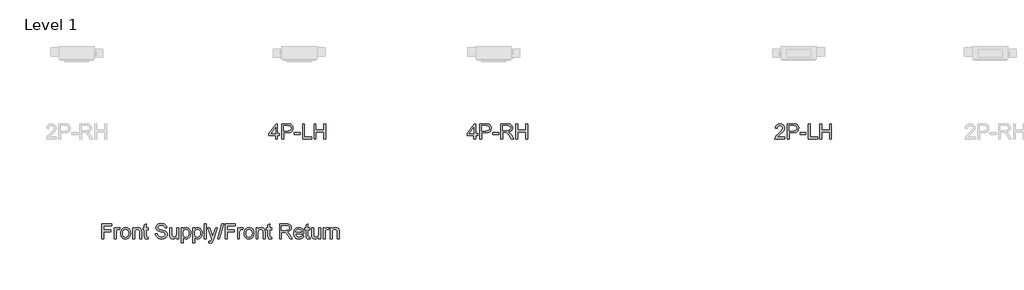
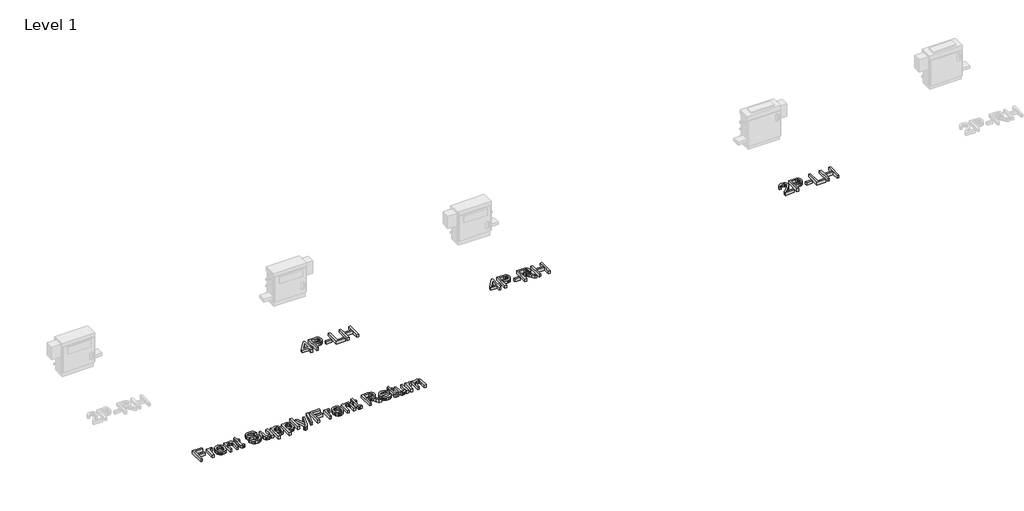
# One storey, part 2 of 3: 4 proxies.
"""IFC4 building model written with IfcOpenShell, lengths in millimetres."""

from ifc_helpers import new_model, si_unit, origin, origin_with_axes, place, context, project, spatial, polyline, outline, extrude, element, save

model = new_model("IFC4")

# Units and contexts
model_context = context("Model", 3, world=origin())
ifc_project = project(units=[si_unit("LENGTHUNIT", "METRE", prefix="MILLI")], contexts=[model_context])

# Site, building, storey
site = spatial("IfcSite", under=ifc_project)
building = spatial("IfcBuilding", under=site)
storey = spatial("IfcBuildingStorey", under=building, Name="Level 1", Elevation=0.0)

# Proxies
placement = place(None, origin())
element("IfcBuildingElementProxy", 1, Name="24\" Arial", ObjectType="24\" Arial", at=placement, inside=storey, context=model_context, shape_type="SweptSolid", body=[
    extrude(outline(polyline([(-12796.4761517, -2672.4337764), (-12796.4761517, -2612.6308793), (-12912.0950862, -2612.6308793), (-12912.0950862, -2580.7360008), (-12788.5024321, -2421.2616085), (-12764.5812732, -2421.2616085), (-12764.5812732, -2580.7360008), (-12732.6863947, -2580.7360008), (-12732.6863947, -2612.6308793), (-12764.5812732, -2612.6308793), (-12764.5812732, -2672.4337764), (-12796.4761517, -2672.4337764)]), holes=[polyline([(-12796.4761517, -2580.7360008), (-12796.4761517, -2482.1858099), (-12872.8494349, -2580.7360008), (-12796.4761517, -2580.7360008)])]), origin_with_axes(), (0.0, 0.0, 1.0), 50.8),
    extrude(outline(polyline([(-12692.8177967, -2672.4337764), (-12692.8177967, -2417.2747487), (-12598.2544656, -2417.2747487), (-12560.1301186, -2419.7042414), (-12543.1314566, -2424.2439665), (-12529.1385131, -2431.6336734), (-12517.870962, -2442.2081961), (-12509.0484773, -2456.3023685), (-12503.3485137, -2472.9272624), (-12501.4485258, -2491.0939498), (-12506.5800505, -2521.1667088), (-12521.9746244, -2546.2247456), (-12534.3031318, -2556.0906663), (-12550.7625555, -2563.1377525), (-12571.3528954, -2567.3660042), (-12596.0741516, -2568.7754214), (-12660.9229182, -2568.7754214), (-12660.9229182, -2672.4337764), (-12692.8177967, -2672.4337764)]), holes=[polyline([(-12660.9229182, -2536.8805429), (-12594.2053111, -2536.8805429), (-12565.9235243, -2533.9526928), (-12547.2351189, -2525.1691422), (-12536.816333, -2511.0749699), (-12533.3434043, -2492.2152541), (-12535.391342, -2477.8874767), (-12541.5351553, -2465.8023079), (-12551.0117342, -2456.707284), (-12563.0579688, -2451.3499411), (-12594.9528473, -2449.1696271), (-12660.9229182, -2449.1696271), (-12660.9229182, -2536.8805429)])]), origin_with_axes(), (0.0, 0.0, 1.0), 50.8),
    extrude(outline(polyline([(-12477.527367, -2596.6834401), (-12477.527367, -2564.7885616), (-12377.8558717, -2564.7885616), (-12377.8558717, -2596.6834401), (-12477.527367, -2596.6834401)])), origin_with_axes(), (0.0, 0.0, 1.0), 50.8),
    extrude(outline(polyline([(-12337.9872736, -2672.4337764), (-12337.9872736, -2417.2747487), (-12306.0923952, -2417.2747487), (-12306.0923952, -2640.538898), (-12178.5128813, -2640.538898), (-12178.5128813, -2672.4337764), (-12337.9872736, -2672.4337764)])), origin_with_axes(), (0.0, 0.0, 1.0), 50.8),
    extrude(outline(polyline([(-12142.631143, -2672.4337764), (-12142.631143, -2417.2747487), (-12110.7362645, -2417.2747487), (-12110.7362645, -2520.9331037), (-11975.183031, -2520.9331037), (-11975.183031, -2417.2747487), (-11943.2881526, -2417.2747487), (-11943.2881526, -2672.4337764), (-11975.183031, -2672.4337764), (-11975.183031, -2552.8279822), (-12110.7362645, -2552.8279822), (-12110.7362645, -2672.4337764), (-12142.631143, -2672.4337764)])), origin_with_axes(), (0.0, 0.0, 1.0), 50.8),
])
element("IfcBuildingElementProxy", 2, Name="24\" Arial", ObjectType="24\" Arial", at=placement, inside=storey, context=model_context, shape_type="SweptSolid", body=[
    extrude(outline(polyline([(-9428.2210372, -2672.4337764), (-9428.2210372, -2612.6308793), (-9543.8399717, -2612.6308793), (-9543.8399717, -2580.7360008), (-9420.2473176, -2421.2616085), (-9396.3261587, -2421.2616085), (-9396.3261587, -2580.7360008), (-9364.4312802, -2580.7360008), (-9364.4312802, -2612.6308793), (-9396.3261587, -2612.6308793), (-9396.3261587, -2672.4337764), (-9428.2210372, -2672.4337764)]), holes=[polyline([(-9428.2210372, -2580.7360008), (-9428.2210372, -2482.1858099), (-9504.5943204, -2580.7360008), (-9428.2210372, -2580.7360008)])]), origin_with_axes(), (0.0, 0.0, 1.0), 50.8),
    extrude(outline(polyline([(-9324.5626822, -2672.4337764), (-9324.5626822, -2417.2747487), (-9229.9993511, -2417.2747487), (-9191.8750041, -2419.7042414), (-9174.8763421, -2424.2439665), (-9160.8833986, -2431.6336734), (-9149.6158475, -2442.2081961), (-9140.7933628, -2456.3023685), (-9135.0933992, -2472.9272624), (-9133.1934113, -2491.0939498), (-9138.324936, -2521.1667088), (-9153.7195099, -2546.2247456), (-9166.0480173, -2556.0906663), (-9182.507441, -2563.1377525), (-9203.0977809, -2567.3660042), (-9227.8190371, -2568.7754214), (-9292.6678037, -2568.7754214), (-9292.6678037, -2672.4337764), (-9324.5626822, -2672.4337764)]), holes=[polyline([(-9292.6678037, -2536.8805429), (-9225.9501966, -2536.8805429), (-9197.6684098, -2533.9526928), (-9178.9800044, -2525.1691422), (-9168.5612185, -2511.0749699), (-9165.0882898, -2492.2152541), (-9167.1362275, -2477.8874767), (-9173.2800408, -2465.8023079), (-9182.7566197, -2456.707284), (-9194.8028543, -2451.3499411), (-9226.6977328, -2449.1696271), (-9292.6678037, -2449.1696271), (-9292.6678037, -2536.8805429)])]), origin_with_axes(), (0.0, 0.0, 1.0), 50.8),
    extrude(outline(polyline([(-9109.2722525, -2596.6834401), (-9109.2722525, -2564.7885616), (-9009.6007572, -2564.7885616), (-9009.6007572, -2596.6834401), (-9109.2722525, -2596.6834401)])), origin_with_axes(), (0.0, 0.0, 1.0), 50.8),
    extrude(outline(polyline([(-8969.7321591, -2672.4337764), (-8969.7321591, -2417.2747487), (-8859.782041, -2417.2747487), (-8830.231, -2418.9956393), (-8808.731547, -2424.1583113), (-8793.0177128, -2433.689398), (-8780.8235284, -2448.5155329), (-8772.9977586, -2466.9002517), (-8770.3891687, -2487.10709), (-8774.7108624, -2512.2429952), (-8787.6759436, -2533.0805672), (-8809.6737541, -2548.3583385), (-8841.0936356, -2556.814842), (-8822.9658824, -2570.4573779), (-8797.1135884, -2603.2866766), (-8754.5663188, -2672.4337764), (-8791.6316561, -2672.4337764), (-8824.834723, -2619.5455893), (-8848.8181765, -2584.5359766), (-8865.6688887, -2567.9967378), (-8880.8376443, -2561.9230061), (-8899.3391656, -2560.8017018), (-8937.8372807, -2560.8017018), (-8937.8372807, -2672.4337764), (-8969.7321591, -2672.4337764)]), holes=[polyline([(-8937.8372807, -2528.9068233), (-8866.4475722, -2528.9068233), (-8830.0363291, -2524.3904587), (-8818.060176, -2518.5191847), (-8809.3544939, -2509.9380919), (-8804.0516588, -2499.5582401), (-8802.2840472, -2488.290689), (-8805.655747, -2472.7325915), (-8815.7708464, -2460.1957863), (-8833.1744239, -2451.9261669), (-8858.4115579, -2449.1696271), (-8937.8372807, -2449.1696271), (-8937.8372807, -2528.9068233)])]), origin_with_axes(), (0.0, 0.0, 1.0), 50.8),
    extrude(outline(polyline([(-8714.5731314, -2672.4337764), (-8714.5731314, -2417.2747487), (-8682.6782529, -2417.2747487), (-8682.6782529, -2520.9331037), (-8547.1250194, -2520.9331037), (-8547.1250194, -2417.2747487), (-8515.2301409, -2417.2747487), (-8515.2301409, -2672.4337764), (-8547.1250194, -2672.4337764), (-8547.1250194, -2552.8279822), (-8682.6782529, -2552.8279822), (-8682.6782529, -2672.4337764), (-8714.5731314, -2672.4337764)])), origin_with_axes(), (0.0, 0.0, 1.0), 50.8),
])
element("IfcBuildingElementProxy", 3, Name="24\" Arial", ObjectType="24\" Arial", at=placement, inside=storey, context=model_context, shape_type="SweptSolid", body=[
    extrude(outline(polyline([(-4145.3589267, -2640.538898), (-4145.3589267, -2672.4337764), (-4312.8070387, -2672.4337764), (-4309.3808311, -2650.4437528), (-4301.5161271, -2633.2582067), (-4290.0071842, -2616.5865918), (-4250.0762914, -2579.6146965), (-4215.6584782, -2549.0435801), (-4195.0077903, -2526.4773306), (-4184.6824463, -2508.1626934), (-4181.240665, -2490.3464136), (-4184.4877754, -2474.3756138), (-4194.2291067, -2461.0990592), (-4209.2031915, -2452.1519851), (-4228.1485625, -2449.1696271), (-4248.0439273, -2452.0819036), (-4263.5007959, -2460.8187331), (-4273.4757323, -2474.6948741), (-4276.9253004, -2493.025085), (-4308.8201789, -2489.0382252), (-4301.0878512, -2458.1867827), (-4284.3695152, -2435.6516806), (-4259.5372966, -2421.8689816), (-4227.4633209, -2417.2747487), (-4195.1557402, -2422.3829128), (-4170.3702426, -2437.7074052), (-4154.6019005, -2460.6007017), (-4149.3457865, -2488.4152784), (-4155.0146028, -2518.6593477), (-4173.8587449, -2549.9312793), (-4219.551896, -2593.6310005), (-4256.2434652, -2624.3111326), (-4270.6335373, -2640.538898), (-4145.3589267, -2640.538898)])), origin_with_axes(), (0.0, 0.0, 1.0), 50.8),
    extrude(outline(polyline([(-4101.5034688, -2672.4337764), (-4101.5034688, -2417.2747487), (-4006.9401377, -2417.2747487), (-3968.8157908, -2419.7042414), (-3951.8171288, -2424.2439665), (-3937.8241853, -2431.6336734), (-3926.5566342, -2442.2081961), (-3917.7341495, -2456.3023685), (-3912.0341859, -2472.9272624), (-3910.134198, -2491.0939498), (-3915.2657226, -2521.1667088), (-3930.6602965, -2546.2247456), (-3942.988804, -2556.0906663), (-3959.4482276, -2563.1377525), (-3980.0385676, -2567.3660042), (-4004.7598238, -2568.7754214), (-4069.6085904, -2568.7754214), (-4069.6085904, -2672.4337764), (-4101.5034688, -2672.4337764)]), holes=[polyline([(-4069.6085904, -2536.8805429), (-4002.8909832, -2536.8805429), (-3974.6091965, -2533.9526928), (-3955.9207911, -2525.1691422), (-3945.5020051, -2511.0749699), (-3942.0290765, -2492.2152541), (-3944.0770142, -2477.8874767), (-3950.2208275, -2465.8023079), (-3959.6974064, -2456.707284), (-3971.743641, -2451.3499411), (-4003.6385195, -2449.1696271), (-4069.6085904, -2449.1696271), (-4069.6085904, -2536.8805429)])]), origin_with_axes(), (0.0, 0.0, 1.0), 50.8),
    extrude(outline(polyline([(-3886.2130391, -2596.6834401), (-3886.2130391, -2564.7885616), (-3786.5415439, -2564.7885616), (-3786.5415439, -2596.6834401), (-3886.2130391, -2596.6834401)])), origin_with_axes(), (0.0, 0.0, 1.0), 50.8),
    extrude(outline(polyline([(-3746.6729458, -2672.4337764), (-3746.6729458, -2417.2747487), (-3714.7780674, -2417.2747487), (-3714.7780674, -2640.538898), (-3587.1985535, -2640.538898), (-3587.1985535, -2672.4337764), (-3746.6729458, -2672.4337764)])), origin_with_axes(), (0.0, 0.0, 1.0), 50.8),
    extrude(outline(polyline([(-3551.3168152, -2672.4337764), (-3551.3168152, -2417.2747487), (-3519.4219367, -2417.2747487), (-3519.4219367, -2520.9331037), (-3383.8687032, -2520.9331037), (-3383.8687032, -2417.2747487), (-3351.9738247, -2417.2747487), (-3351.9738247, -2672.4337764), (-3383.8687032, -2672.4337764), (-3383.8687032, -2552.8279822), (-3519.4219367, -2552.8279822), (-3519.4219367, -2672.4337764), (-3551.3168152, -2672.4337764)])), origin_with_axes(), (0.0, 0.0, 1.0), 50.8),
])
element("IfcBuildingElementProxy", 4, Name="24\" Arial", ObjectType="24\" Arial", at=placement, inside=storey, context=model_context, shape_type="SweptSolid", body=[
    extrude(outline(polyline([(-15751.2981561, -4373.3936295), (-15751.2981561, -4118.2346017), (-15579.8631843, -4118.2346017), (-15579.8631843, -4150.1294801), (-15719.4032777, -4150.1294801), (-15719.4032777, -4225.8798165), (-15599.7974834, -4225.8798165), (-15599.7974834, -4257.774695), (-15719.4032777, -4257.774695), (-15719.4032777, -4373.3936295), (-15751.2981561, -4373.3936295)])), origin_with_axes(), (0.0, 0.0, 1.0), 50.8),
    extrude(outline(polyline([(-15539.9945863, -4373.3936295), (-15539.9945863, -4186.0112184), (-15512.0865676, -4186.0112184), (-15512.0865676, -4213.732353), (-15501.7767973, -4197.6603244), (-15492.2768579, -4188.1915324), (-15482.7457712, -4183.5661521), (-15472.3425589, -4182.0243586), (-15456.4574143, -4184.4849987), (-15440.323091, -4191.8669188), (-15450.9754821, -4220.460179), (-15473.4015685, -4213.9192371), (-15482.9248684, -4215.4921779), (-15491.4358797, -4220.2110002), (-15498.3116555, -4227.7175097), (-15502.929249, -4237.6535119), (-15508.0997078, -4274.9057332), (-15508.0997078, -4373.3936295), (-15539.9945863, -4373.3936295)])), origin_with_axes(), (0.0, 0.0, 1.0), 50.8),
    extrude(outline(polyline([(-15428.3625116, -4279.7024239), (-15426.6377275, -4255.4347509), (-15421.4633753, -4234.523204), (-15412.8394549, -4216.9677832), (-15400.7659664, -4202.7684886), (-15375.1939984, -4187.2103911), (-15344.5761609, -4182.0243586), (-15326.9798593, -4183.6031395), (-15311.0694075, -4188.3394823), (-15296.8448056, -4196.2333868), (-15284.3060537, -4207.2848532), (-15274.072205, -4221.1201133), (-15266.7623131, -4237.365399), (-15262.376378, -4256.0207103), (-15260.9143996, -4277.0860472), (-15263.499629, -4309.3079728), (-15271.2553172, -4333.8365048), (-15283.9556461, -4352.2056499), (-15301.3747972, -4365.9494147), (-15322.0644193, -4374.5227206), (-15344.5761609, -4377.3804893), (-15362.4294282, -4375.8075485), (-15378.4878298, -4371.0887261), (-15392.7513659, -4363.2240222), (-15405.2200363, -4352.2134367), (-15415.3448692, -4338.2438537), (-15422.5768928, -4321.5021573), (-15426.9161069, -4301.9883473), (-15428.3625116, -4279.7024239)]), holes=[polyline([(-15396.4676331, -4279.6401293), (-15392.7766731, -4308.5059287), (-15381.7037929, -4329.0709614), (-15365.0399648, -4341.3819484), (-15344.5761609, -4345.4856108), (-15324.2057991, -4341.3585879), (-15307.5731183, -4328.9775194), (-15296.5002381, -4308.1399474), (-15292.8092781, -4278.6434143), (-15296.5235987, -4250.6185931), (-15307.6665603, -4230.3338865), (-15324.3226016, -4218.0228994), (-15344.5761609, -4213.9192371), (-15365.0399648, -4218.0073258), (-15381.7037929, -4230.2715918), (-15392.7766731, -4250.7899035), (-15396.4676331, -4279.6401293)])]), origin_with_axes(), (0.0, 0.0, 1.0), 50.8),
    extrude(outline(polyline([(-15225.0326613, -4373.3936295), (-15225.0326613, -4186.0112184), (-15193.1377829, -4186.0112184), (-15193.1377829, -4212.1749859), (-15182.0571159, -4198.9840865), (-15168.7494139, -4189.5620154), (-15153.2146769, -4183.9087728), (-15135.452905, -4182.0243586), (-15119.731284, -4183.5427916), (-15105.333425, -4188.0980904), (-15093.3261246, -4195.121816), (-15084.7761791, -4204.0455296), (-15075.2139451, -4227.4994783), (-15073.5319886, -4258.3353472), (-15073.5319886, -4373.3936295), (-15105.4268671, -4373.3936295), (-15105.4268671, -4262.6336804), (-15109.1022535, -4234.4141883), (-15114.1870571, -4226.0121927), (-15122.0906952, -4219.4946114), (-15143.9872768, -4213.9192371), (-15162.6678953, -4217.049545), (-15178.591974, -4226.4404687), (-15189.5013307, -4244.5837955), (-15193.1377829, -4273.971313), (-15193.1377829, -4373.3936295), (-15225.0326613, -4373.3936295)])), origin_with_axes(), (0.0, 0.0, 1.0), 50.8),
    extrude(outline(polyline([(-14961.8999139, -4346.7937992), (-14957.9130541, -4374.3280497), (-14981.7719183, -4377.3804893), (-14997.080837, -4376.0567272), (-15008.496338, -4372.0854411), (-15021.8274004, -4358.1937264), (-15025.6896709, -4322.0005147), (-15025.6896709, -4217.9060969), (-15049.6108297, -4217.9060969), (-15049.6108297, -4186.0112184), (-15025.6896709, -4186.0112184), (-15025.6896709, -4140.473804), (-14993.7947924, -4121.723104), (-14993.7947924, -4186.0112184), (-14961.8999139, -4186.0112184), (-14961.8999139, -4217.9060969), (-14993.7947924, -4217.9060969), (-14993.7947924, -4321.0660945), (-14992.1128359, -4337.5118912), (-14986.662051, -4343.3364442), (-14975.7916286, -4345.4856108), (-14961.8999139, -4346.7937992)])), origin_with_axes(), (0.0, 0.0, 1.0), 50.8),
    extrude(outline(polyline([(-14838.3072599, -4285.6827137), (-14806.4123814, -4285.6827137), (-14802.7525687, -4303.3821909), (-14796.1337584, -4317.6087395), (-14785.8084145, -4328.899651), (-14771.0290006, -4337.7922173), (-14752.9635421, -4343.5622624), (-14732.7800643, -4345.4856108), (-14715.0105055, -4344.0294725), (-14699.4524081, -4339.6610578), (-14686.8455213, -4332.7463478), (-14677.9295946, -4323.6513239), (-14672.6267595, -4313.2091774), (-14670.8591479, -4302.2530997), (-14676.1541961, -4282.349948), (-14684.2213577, -4274.4774573), (-14697.8327463, -4267.8664339), (-14744.2734336, -4255.6878231), (-14794.2649179, -4239.9584152), (-14810.1422756, -4229.2281558), (-14821.394253, -4216.2241404), (-14828.0987184, -4201.2266951), (-14830.3335402, -4184.516146), (-14827.5692136, -4165.8355275), (-14819.2762337, -4148.4163763), (-14805.672632, -4133.6525361), (-14786.9764398, -4122.9378504), (-14764.5347797, -4116.420269), (-14739.6947743, -4114.2477419), (-14712.7834706, -4116.5214978), (-14689.2360798, -4123.3427658), (-14669.8935803, -4134.5713827), (-14655.5969502, -4150.0671855), (-14646.5486472, -4168.8646065), (-14642.9511292, -4189.9980782), (-14674.8460077, -4189.9980782), (-14680.701708, -4170.9670521), (-14692.9114662, -4157.2310742), (-14711.9892133, -4148.9147338), (-14738.4488806, -4146.1426203), (-14765.5314947, -4148.8835865), (-14784.1108843, -4157.1064848), (-14794.8567174, -4169.2072273), (-14798.4386618, -4183.5817257), (-14795.9001534, -4195.8382049), (-14788.2846282, -4205.6963387), (-14770.2814644, -4214.5110366), (-14736.2062719, -4223.5126185), (-14679.7672878, -4239.5223524), (-14661.5850267, -4251.0935901), (-14648.9002716, -4265.3746465), (-14641.4482699, -4282.209785), (-14638.9642694, -4301.4432688), (-14641.8220381, -4321.1050286), (-14650.395344, -4339.5987631), (-14664.3337797, -4355.515055), (-14683.2869374, -4367.4444871), (-14706.0790051, -4374.8964887), (-14731.5341706, -4377.3804893), (-14762.7827417, -4374.7018178), (-14788.5026596, -4366.6658035), (-14808.989824, -4353.241299), (-14824.5401346, -4334.3971569), (-14834.5228578, -4311.4415657), (-14838.3072599, -4285.6827137)])), origin_with_axes(), (0.0, 0.0, 1.0), 50.8),
    extrude(outline(polyline([(-14475.5030172, -4373.3936295), (-14475.5030172, -4341.1872776), (-14487.0431075, -4357.0218077), (-14500.4831857, -4368.3321863), (-14515.8232518, -4375.1184135), (-14533.0633057, -4377.3804893), (-14548.5980427, -4375.7919748), (-14563.0581963, -4371.0264314), (-14575.1900861, -4363.8625427), (-14583.7400316, -4355.0789922), (-14593.239971, -4331.5938961), (-14595.1088115, -4301.9416263), (-14595.1088115, -4186.0112184), (-14563.213933, -4186.0112184), (-14563.213933, -4286.9286073), (-14561.2827978, -4319.4464327), (-14556.634057, -4330.2934946), (-14548.6681242, -4338.5397535), (-14537.9145043, -4343.7491465), (-14524.9027021, -4345.4856108), (-14511.1433636, -4343.7102123), (-14498.2717244, -4338.3840168), (-14487.6582675, -4329.9975949), (-14480.673476, -4319.0415172), (-14476.7956319, -4304.0362851), (-14475.5030172, -4283.5023997), (-14475.5030172, -4186.0112184), (-14443.6081388, -4186.0112184), (-14443.6081388, -4373.3936295), (-14475.5030172, -4373.3936295)])), origin_with_axes(), (0.0, 0.0, 1.0), 50.8),
    extrude(outline(polyline([(-14399.7526809, -4445.157106), (-14399.7526809, -4186.0112184), (-14367.8578024, -4186.0112184), (-14367.8578024, -4217.2831501), (-14357.4545901, -4201.8574288), (-14345.8054841, -4190.8390565), (-14332.2252428, -4184.2280331), (-14316.0286249, -4182.0243586), (-14294.4590904, -4185.1079455), (-14275.5993746, -4194.3587062), (-14260.2437349, -4209.2159884), (-14249.1864284, -4229.1191401), (-14242.5053235, -4252.6198098), (-14240.2782885, -4278.2696462), (-14242.7934364, -4305.5469312), (-14250.33888, -4329.943087), (-14262.6732276, -4350.2200068), (-14279.5550871, -4365.1395838), (-14299.2168469, -4374.3202629), (-14319.8908953, -4377.3804893), (-14334.5535067, -4375.3325515), (-14347.6431773, -4369.1887382), (-14367.8578024, -4348.4757556), (-14367.8578024, -4445.157106), (-14399.7526809, -4445.157106)]), holes=[polyline([(-14367.8578024, -4281.1974964), (-14364.4082342, -4309.7907566), (-14354.0595298, -4329.7873503), (-14338.7895452, -4341.5610457), (-14320.5761368, -4345.4856108), (-14302.0668287, -4341.4208826), (-14286.4075024, -4329.2266981), (-14275.7317508, -4308.4981419), (-14272.173167, -4278.8302984), (-14275.6460956, -4250.3927749), (-14286.0648816, -4230.1158551), (-14301.3115057, -4217.9683916), (-14319.2679485, -4213.9192371), (-14337.2944728, -4218.2253572), (-14353.1251095, -4231.1437174), (-14364.1746292, -4252.2694022), (-14367.8578024, -4281.1974964)])]), origin_with_axes(), (0.0, 0.0, 1.0), 50.8),
    extrude(outline(polyline([(-14204.3965502, -4445.157106), (-14204.3965502, -4186.0112184), (-14172.5016717, -4186.0112184), (-14172.5016717, -4217.2831501), (-14162.0984594, -4201.8574288), (-14150.4493534, -4190.8390565), (-14136.8691122, -4184.2280331), (-14120.6724942, -4182.0243586), (-14099.1029597, -4185.1079455), (-14080.243244, -4194.3587062), (-14064.8876042, -4209.2159884), (-14053.8302977, -4229.1191401), (-14047.1491928, -4252.6198098), (-14044.9221579, -4278.2696462), (-14047.4373057, -4305.5469312), (-14054.9827494, -4329.943087), (-14067.3170969, -4350.2200068), (-14084.1989564, -4365.1395838), (-14103.8607162, -4374.3202629), (-14124.5347647, -4377.3804893), (-14139.197376, -4375.3325515), (-14152.2870466, -4369.1887382), (-14172.5016717, -4348.4757556), (-14172.5016717, -4445.157106), (-14204.3965502, -4445.157106)]), holes=[polyline([(-14172.5016717, -4281.1974964), (-14169.0521036, -4309.7907566), (-14158.7033991, -4329.7873503), (-14143.4334146, -4341.5610457), (-14125.2200062, -4345.4856108), (-14106.7106981, -4341.4208826), (-14091.0513717, -4329.2266981), (-14080.3756202, -4308.4981419), (-14076.8170363, -4278.8302984), (-14080.289965, -4250.3927749), (-14090.708751, -4230.1158551), (-14105.955375, -4217.9683916), (-14123.9118178, -4213.9192371), (-14141.9383422, -4218.2253572), (-14157.7689789, -4231.1437174), (-14168.8184985, -4252.2694022), (-14172.5016717, -4281.1974964)])]), origin_with_axes(), (0.0, 0.0, 1.0), 50.8),
    extrude(outline(polyline([(-14009.0404196, -4373.3936295), (-14009.0404196, -4118.2346017), (-13977.1455411, -4118.2346017), (-13977.1455411, -4373.3936295), (-14009.0404196, -4373.3936295)])), origin_with_axes(), (0.0, 0.0, 1.0), 50.8),
    extrude(outline(polyline([(-13929.3032234, -4445.157106), (-13933.2900832, -4414.4458265), (-13917.0934652, -4417.2490874), (-13901.9558569, -4413.7294377), (-13892.6739489, -4403.9180249), (-13883.9526931, -4380.4329288), (-13881.4609057, -4372.7083879), (-13949.2375224, -4186.0112184), (-13915.5983928, -4186.0112184), (-13879.6543598, -4290.0433416), (-13867.1331282, -4331.6561908), (-13854.6118967, -4294.902327), (-13817.6711487, -4186.0112184), (-13784.2811978, -4186.0112184), (-13849.5037325, -4377.8788467), (-13866.4478867, -4419.491696), (-13875.1224215, -4432.7760375), (-13884.949408, -4441.9800771), (-13896.364909, -4447.3529936), (-13909.8049871, -4449.1439658), (-13929.3032234, -4445.157106)])), origin_with_axes(), (0.0, 0.0, 1.0), 50.8),
    extrude(outline(polyline([(-13781.7894105, -4373.3936295), (-13710.0259339, -4118.2346017), (-13681.2457896, -4118.2346017), (-13753.0092662, -4373.3936295), (-13781.7894105, -4373.3936295)])), origin_with_axes(), (0.0, 0.0, 1.0), 50.8),
    extrude(outline(polyline([(-13654.2098966, -4373.3936295), (-13654.2098966, -4118.2346017), (-13482.7749248, -4118.2346017), (-13482.7749248, -4150.1294801), (-13622.3150181, -4150.1294801), (-13622.3150181, -4225.8798165), (-13502.7092238, -4225.8798165), (-13502.7092238, -4257.774695), (-13622.3150181, -4257.774695), (-13622.3150181, -4373.3936295), (-13654.2098966, -4373.3936295)])), origin_with_axes(), (0.0, 0.0, 1.0), 50.8),
    extrude(outline(polyline([(-13442.9063267, -4373.3936295), (-13442.9063267, -4186.0112184), (-13414.998308, -4186.0112184), (-13414.998308, -4213.732353), (-13404.6885377, -4197.6603244), (-13395.1885983, -4188.1915324), (-13385.6575116, -4183.5661521), (-13375.2542993, -4182.0243586), (-13359.3691547, -4184.4849987), (-13343.2348315, -4191.8669188), (-13353.8872225, -4220.460179), (-13376.3133089, -4213.9192371), (-13385.8366088, -4215.4921779), (-13394.3476201, -4220.2110002), (-13401.2233959, -4227.7175097), (-13405.8409894, -4237.6535119), (-13411.0114482, -4274.9057332), (-13411.0114482, -4373.3936295), (-13442.9063267, -4373.3936295)])), origin_with_axes(), (0.0, 0.0, 1.0), 50.8),
    extrude(outline(polyline([(-13331.274252, -4279.7024239), (-13329.549468, -4255.4347509), (-13324.3751157, -4234.523204), (-13315.7511953, -4216.9677832), (-13303.6777068, -4202.7684886), (-13278.1057388, -4187.2103911), (-13247.4879014, -4182.0243586), (-13229.8915997, -4183.6031395), (-13213.9811479, -4188.3394823), (-13199.7565461, -4196.2333868), (-13187.2177941, -4207.2848532), (-13176.9839454, -4221.1201133), (-13169.6740536, -4237.365399), (-13165.2881184, -4256.0207103), (-13163.8261401, -4277.0860472), (-13166.4113695, -4309.3079728), (-13174.1670577, -4333.8365048), (-13186.8673865, -4352.2056499), (-13204.2865376, -4365.9494147), (-13224.9761597, -4374.5227206), (-13247.4879014, -4377.3804893), (-13265.3411686, -4375.8075485), (-13281.3995702, -4371.0887261), (-13295.6631063, -4363.2240222), (-13308.1317767, -4352.2134367), (-13318.2566097, -4338.2438537), (-13325.4886332, -4321.5021573), (-13329.8278473, -4301.9883473), (-13331.274252, -4279.7024239)]), holes=[polyline([(-13299.3793736, -4279.6401293), (-13295.6884135, -4308.5059287), (-13284.6155333, -4329.0709614), (-13267.9517052, -4341.3819484), (-13247.4879014, -4345.4856108), (-13227.1175395, -4341.3585879), (-13210.4848588, -4328.9775194), (-13199.4119786, -4308.1399474), (-13195.7210185, -4278.6434143), (-13199.4353391, -4250.6185931), (-13210.5783008, -4230.3338865), (-13227.2343421, -4218.0228994), (-13247.4879014, -4213.9192371), (-13267.9517052, -4218.0073258), (-13284.6155333, -4230.2715918), (-13295.6884135, -4250.7899035), (-13299.3793736, -4279.6401293)])]), origin_with_axes(), (0.0, 0.0, 1.0), 50.8),
    extrude(outline(polyline([(-13127.9444018, -4373.3936295), (-13127.9444018, -4186.0112184), (-13096.0495233, -4186.0112184), (-13096.0495233, -4212.1749859), (-13084.9688563, -4198.9840865), (-13071.6611543, -4189.5620154), (-13056.1264174, -4183.9087728), (-13038.3646454, -4182.0243586), (-13022.6430244, -4183.5427916), (-13008.2451655, -4188.0980904), (-12996.237865, -4195.121816), (-12987.6879196, -4204.0455296), (-12978.1256855, -4227.4994783), (-12976.443729, -4258.3353472), (-12976.443729, -4373.3936295), (-13008.3386075, -4373.3936295), (-13008.3386075, -4262.6336804), (-13012.0139939, -4234.4141883), (-13017.0987975, -4226.0121927), (-13025.0024356, -4219.4946114), (-13046.8990172, -4213.9192371), (-13065.5796357, -4217.049545), (-13081.5037145, -4226.4404687), (-13092.4130711, -4244.5837955), (-13096.0495233, -4273.971313), (-13096.0495233, -4373.3936295), (-13127.9444018, -4373.3936295)])), origin_with_axes(), (0.0, 0.0, 1.0), 50.8),
    extrude(outline(polyline([(-12864.8116544, -4346.7937992), (-12860.8247946, -4374.3280497), (-12884.6836587, -4377.3804893), (-12899.9925775, -4376.0567272), (-12911.4080784, -4372.0854411), (-12924.7391409, -4358.1937264), (-12928.6014113, -4322.0005147), (-12928.6014113, -4217.9060969), (-12952.5225702, -4217.9060969), (-12952.5225702, -4186.0112184), (-12928.6014113, -4186.0112184), (-12928.6014113, -4140.473804), (-12896.7065328, -4121.723104), (-12896.7065328, -4186.0112184), (-12864.8116544, -4186.0112184), (-12864.8116544, -4217.9060969), (-12896.7065328, -4217.9060969), (-12896.7065328, -4321.0660945), (-12895.0245764, -4337.5118912), (-12889.5737915, -4343.3364442), (-12878.703369, -4345.4856108), (-12864.8116544, -4346.7937992)])), origin_with_axes(), (0.0, 0.0, 1.0), 50.8),
    extrude(outline(polyline([(-12729.2584209, -4373.3936295), (-12729.2584209, -4118.2346017), (-12619.3083027, -4118.2346017), (-12589.7572617, -4119.9554923), (-12568.2578087, -4125.1181643), (-12552.5439746, -4134.649251), (-12540.3497901, -4149.475386), (-12532.5240203, -4167.8601047), (-12529.9154304, -4188.066943), (-12534.2371241, -4213.2028482), (-12547.2022054, -4234.0404202), (-12569.2000158, -4249.3181916), (-12600.6198973, -4257.774695), (-12582.4921441, -4271.4172309), (-12556.6398501, -4304.2465296), (-12514.0925805, -4373.3936295), (-12551.1579178, -4373.3936295), (-12584.3609847, -4320.5054423), (-12608.3444382, -4285.4958296), (-12625.1951504, -4268.9565909), (-12640.3639061, -4262.8828591), (-12658.8654274, -4261.7615548), (-12697.3635424, -4261.7615548), (-12697.3635424, -4373.3936295), (-12729.2584209, -4373.3936295)]), holes=[polyline([(-12697.3635424, -4229.8666763), (-12625.9738339, -4229.8666763), (-12589.5625908, -4225.3503117), (-12577.5864377, -4219.4790377), (-12568.8807556, -4210.8979449), (-12563.5779206, -4200.5180931), (-12561.8103089, -4189.250542), (-12565.1820087, -4173.6924446), (-12575.2971081, -4161.1556393), (-12592.7006856, -4152.8860199), (-12617.9378196, -4150.1294801), (-12697.3635424, -4150.1294801), (-12697.3635424, -4229.8666763)])]), origin_with_axes(), (0.0, 0.0, 1.0), 50.8),
    extrude(outline(polyline([(-12346.8936473, -4317.5775921), (-12315.6217157, -4321.5644519), (-12326.8892667, -4345.1274164), (-12344.8690701, -4362.7412384), (-12369.1562102, -4373.7206765), (-12399.3457717, -4377.3804893), (-12419.1360143, -4375.8017084), (-12436.7693034, -4371.0653656), (-12452.2456391, -4363.1714611), (-12465.5650213, -4352.1199947), (-12476.2758136, -4338.2185465), (-12483.9263796, -4321.7746965), (-12488.5167191, -4302.7884447), (-12490.0468323, -4281.2597911), (-12488.5011455, -4259.0011216), (-12483.8640849, -4239.3821894), (-12476.1356506, -4222.4029944), (-12465.3158426, -4208.0635367), (-12452.0315011, -4196.6713963), (-12436.9094664, -4188.5341532), (-12419.9497386, -4183.6518073), (-12401.1523175, -4182.0243586), (-12382.9603229, -4183.6479138), (-12366.5086861, -4188.5185795), (-12351.797407, -4196.6363556), (-12338.8264857, -4208.0012421), (-12328.238336, -4222.3095524), (-12320.675372, -4239.2576), (-12316.1375935, -4258.8453849), (-12314.6250007, -4281.072907), (-12314.8118848, -4289.6695735), (-12458.1519538, -4289.6695735), (-12452.6310874, -4313.5440113), (-12439.8061693, -4331.0955387), (-12421.2968611, -4341.8880928), (-12398.7228248, -4345.4856108), (-12381.7475233, -4343.819228), (-12367.4508932, -4338.8200795), (-12355.8329345, -4330.1766921), (-12346.8936473, -4317.5775921)]), holes=[polyline([(-12458.1519538, -4257.774695), (-12346.5198792, -4257.774695), (-12350.8337861, -4240.9239828), (-12359.2902895, -4228.8699614), (-12377.8852528, -4217.6569182), (-12401.2769069, -4213.9192371), (-12422.7763599, -4216.9015951), (-12440.5537055, -4225.8486692), (-12452.9114135, -4239.7948917), (-12458.1519538, -4257.774695)])]), origin_with_axes(), (0.0, 0.0, 1.0), 50.8),
    extrude(outline(polyline([(-12214.9535055, -4346.7937992), (-12210.9666457, -4374.3280497), (-12234.8255099, -4377.3804893), (-12250.1344286, -4376.0567272), (-12261.5499295, -4372.0854411), (-12274.880992, -4358.1937264), (-12278.7432624, -4322.0005147), (-12278.7432624, -4217.9060969), (-12302.6644213, -4217.9060969), (-12302.6644213, -4186.0112184), (-12278.7432624, -4186.0112184), (-12278.7432624, -4140.473804), (-12246.848384, -4121.723104), (-12246.848384, -4186.0112184), (-12214.9535055, -4186.0112184), (-12214.9535055, -4217.9060969), (-12246.848384, -4217.9060969), (-12246.848384, -4321.0660945), (-12245.1664275, -4337.5118912), (-12239.7156426, -4343.3364442), (-12228.8452201, -4345.4856108), (-12214.9535055, -4346.7937992)])), origin_with_axes(), (0.0, 0.0, 1.0), 50.8),
    extrude(outline(polyline([(-12063.4528327, -4373.3936295), (-12063.4528327, -4341.1872776), (-12074.9929231, -4357.0218077), (-12088.4330012, -4368.3321863), (-12103.7730673, -4375.1184135), (-12121.0131212, -4377.3804893), (-12136.5478582, -4375.7919748), (-12151.0080118, -4371.0264314), (-12163.1399016, -4363.8625427), (-12171.6898471, -4355.0789922), (-12181.1897865, -4331.5938961), (-12183.058627, -4301.9416263), (-12183.058627, -4186.0112184), (-12151.1637485, -4186.0112184), (-12151.1637485, -4286.9286073), (-12149.2326133, -4319.4464327), (-12144.5838725, -4330.2934946), (-12136.6179397, -4338.5397535), (-12125.8643198, -4343.7491465), (-12112.8525176, -4345.4856108), (-12099.0931791, -4343.7102123), (-12086.2215399, -4338.3840168), (-12075.6080831, -4329.9975949), (-12068.6232916, -4319.0415172), (-12064.7454475, -4304.0362851), (-12063.4528327, -4283.5023997), (-12063.4528327, -4186.0112184), (-12031.5579543, -4186.0112184), (-12031.5579543, -4373.3936295), (-12063.4528327, -4373.3936295)])), origin_with_axes(), (0.0, 0.0, 1.0), 50.8),
    extrude(outline(polyline([(-11987.7024964, -4373.3936295), (-11987.7024964, -4186.0112184), (-11959.7944777, -4186.0112184), (-11959.7944777, -4213.732353), (-11949.4847074, -4197.6603244), (-11939.984768, -4188.1915324), (-11930.4536813, -4183.5661521), (-11920.050469, -4182.0243586), (-11904.1653244, -4184.4849987), (-11888.0310012, -4191.8669188), (-11898.6833922, -4220.460179), (-11921.1094786, -4213.9192371), (-11930.6327785, -4215.4921779), (-11939.1437898, -4220.2110002), (-11946.0195656, -4227.7175097), (-11950.6371591, -4237.6535119), (-11955.8076179, -4274.9057332), (-11955.8076179, -4373.3936295), (-11987.7024964, -4373.3936295)])), origin_with_axes(), (0.0, 0.0, 1.0), 50.8),
    extrude(outline(polyline([(-11868.0967021, -4373.3936295), (-11868.0967021, -4186.0112184), (-11836.2018236, -4186.0112184), (-11836.2018236, -4212.1749859), (-11825.1211566, -4198.9840865), (-11811.8134546, -4189.5620154), (-11796.2787177, -4183.9087728), (-11778.5169458, -4182.0243586), (-11762.7953248, -4183.5427916), (-11748.3974658, -4188.0980904), (-11736.3901654, -4195.121816), (-11727.8402199, -4204.0455296), (-11718.2779858, -4227.4994783), (-11716.5960294, -4258.3353472), (-11716.5960294, -4373.3936295), (-11748.4909078, -4373.3936295), (-11748.4909078, -4262.6336804), (-11752.1662942, -4234.4141883), (-11757.2510978, -4226.0121927), (-11765.1547359, -4219.4946114), (-11787.0513175, -4213.9192371), (-11805.7319361, -4217.049545), (-11821.6560148, -4226.4404687), (-11832.5653714, -4244.5837955), (-11836.2018236, -4273.971313), (-11836.2018236, -4373.3936295), (-11868.0967021, -4373.3936295)])), origin_with_axes(), (0.0, 0.0, 1.0), 50.8),
])

save(model, "model.ifc")
